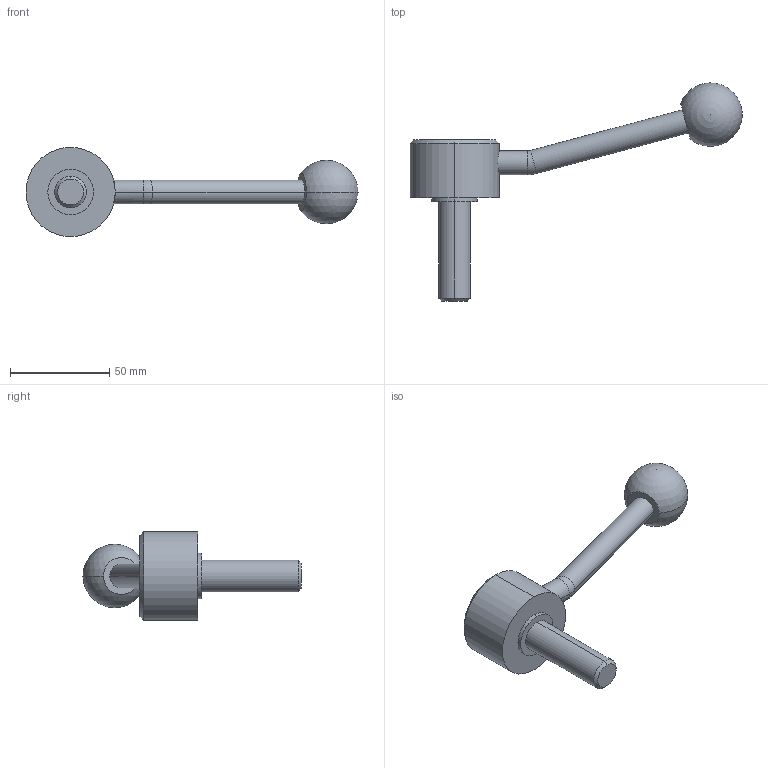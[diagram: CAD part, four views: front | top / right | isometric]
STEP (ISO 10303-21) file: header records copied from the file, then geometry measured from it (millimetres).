
FILE_DESCRIPTION (( 'STEP AP214' ), '1' );
FILE_NAME ('125.5-45-M16-50-E.step', '2020-02-18T11:44:06', ( '' ), ( '' ), 'SwSTEP 2.0', 'SolidWorks 2019', '' );
FILE_SCHEMA (( 'AUTOMOTIVE_DESIGN' ));
Length unit declared in the file: millimetre
Products named in the file (1): 125.5-45-M16-50-E
Bounding box: 167.44 x 109.99 x 45 mm (x, y, z)
Volume: 84838.5 mm3; surface area: 16385.5 mm2
Topology: 1 solids, 1 shells, 26 faces, 55 edges, 34 vertices
Faces by surface type: cylinder 12, plane 6, cone 4, torus 2, sphere 2
Entity records: 850 total; most frequent: CARTESIAN_POINT 192, DIRECTION 134, ORIENTED_EDGE 100, AXIS2_PLACEMENT_3D 59, EDGE_CURVE 50, CIRCLE 32, EDGE_LOOP 31, VERTEX_POINT 31
